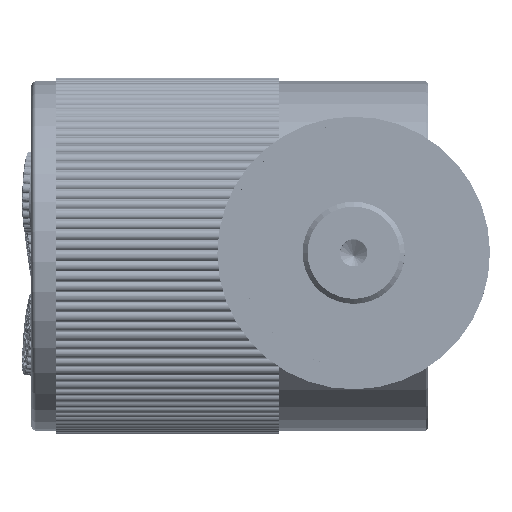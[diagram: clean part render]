
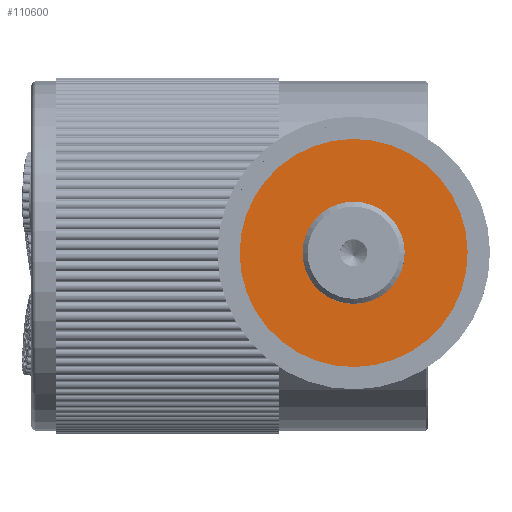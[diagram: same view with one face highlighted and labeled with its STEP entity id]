
A CAD part, top view. The second image highlights one B-rep face of the part: STEP entity #110600.
In plain terms, the highlighted planar face has unit normal (0, 0, 1).
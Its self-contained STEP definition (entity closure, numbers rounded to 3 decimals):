
#1276 = DIRECTION ( 'NONE',  ( 0., 0., -1. ) ) ;
#4415 = AXIS2_PLACEMENT_3D ( 'NONE', #148611, #93560, #132152 ) ;
#18607 = FACE_OUTER_BOUND ( 'NONE', #68536, .T. ) ;
#23029 = VERTEX_POINT ( 'NONE', #85806 ) ;
#29316 = CARTESIAN_POINT ( 'NONE',  ( 0., 0., 4. ) ) ;
#33128 = DIRECTION ( 'NONE',  ( 0., 0., 1. ) ) ;
#36370 = EDGE_CURVE ( 'NONE', #23029, #88477, #100749, .T. ) ;
#37749 = ORIENTED_EDGE ( 'NONE', *, *, #102630, .T. ) ;
#39052 = CARTESIAN_POINT ( 'NONE',  ( 0., 0., 4. ) ) ;
#39074 = ORIENTED_EDGE ( 'NONE', *, *, #117178, .T. ) ;
#41232 = VERTEX_POINT ( 'NONE', #44878 ) ;
#44878 = CARTESIAN_POINT ( 'NONE',  ( -23., 0., 4. ) ) ;
#46403 = AXIS2_PLACEMENT_3D ( 'NONE', #39052, #1276, #155569 ) ;
#49299 = DIRECTION ( 'NONE',  ( 1., 0., 0. ) ) ;
#50691 = EDGE_CURVE ( 'NONE', #161735, #41232, #99008, .T. ) ;
#57653 = EDGE_LOOP ( 'NONE', ( #148379, #39074 ) ) ;
#63993 = CIRCLE ( 'NONE', #85364, 23. ) ;
#68536 = EDGE_LOOP ( 'NONE', ( #123663, #37749 ) ) ;
#72689 = AXIS2_PLACEMENT_3D ( 'NONE', #118383, #107515, #157832 ) ;
#85364 = AXIS2_PLACEMENT_3D ( 'NONE', #29316, #165063, #49299 ) ;
#85806 = CARTESIAN_POINT ( 'NONE',  ( 9.987, 0., 4. ) ) ;
#88477 = VERTEX_POINT ( 'NONE', #105490 ) ;
#93560 = DIRECTION ( 'NONE',  ( 0., 0., -1. ) ) ;
#99008 = CIRCLE ( 'NONE', #120482, 23. ) ;
#100749 = CIRCLE ( 'NONE', #4415, 9.987 ) ;
#102630 = EDGE_CURVE ( 'NONE', #41232, #161735, #63993, .T. ) ;
#105490 = CARTESIAN_POINT ( 'NONE',  ( -9.987, 0., 4. ) ) ;
#105831 = FACE_BOUND ( 'NONE', #57653, .T. ) ;
#107515 = DIRECTION ( 'NONE',  ( 0., 0., 1. ) ) ;
#110600 = ADVANCED_FACE ( 'NONE', ( #105831, #18607 ), #131831, .T. ) ;
#117178 = EDGE_CURVE ( 'NONE', #88477, #23029, #118666, .T. ) ;
#118383 = CARTESIAN_POINT ( 'NONE',  ( 0., 0., 4. ) ) ;
#118666 = CIRCLE ( 'NONE', #46403, 9.987 ) ;
#120482 = AXIS2_PLACEMENT_3D ( 'NONE', #149670, #33128, #138721 ) ;
#123663 = ORIENTED_EDGE ( 'NONE', *, *, #50691, .T. ) ;
#131831 = PLANE ( 'NONE',  #72689 ) ;
#132152 = DIRECTION ( 'NONE',  ( 1., 0., 0. ) ) ;
#134420 = CARTESIAN_POINT ( 'NONE',  ( 23., 0., 4. ) ) ;
#138721 = DIRECTION ( 'NONE',  ( 1., 0., 0. ) ) ;
#148379 = ORIENTED_EDGE ( 'NONE', *, *, #36370, .T. ) ;
#148611 = CARTESIAN_POINT ( 'NONE',  ( 0., 0., 4. ) ) ;
#149670 = CARTESIAN_POINT ( 'NONE',  ( 0., 0., 4. ) ) ;
#155569 = DIRECTION ( 'NONE',  ( 1., 0., 0. ) ) ;
#157832 = DIRECTION ( 'NONE',  ( 1., 0., 0. ) ) ;
#161735 = VERTEX_POINT ( 'NONE', #134420 ) ;
#165063 = DIRECTION ( 'NONE',  ( 0., 0., 1. ) ) ;
